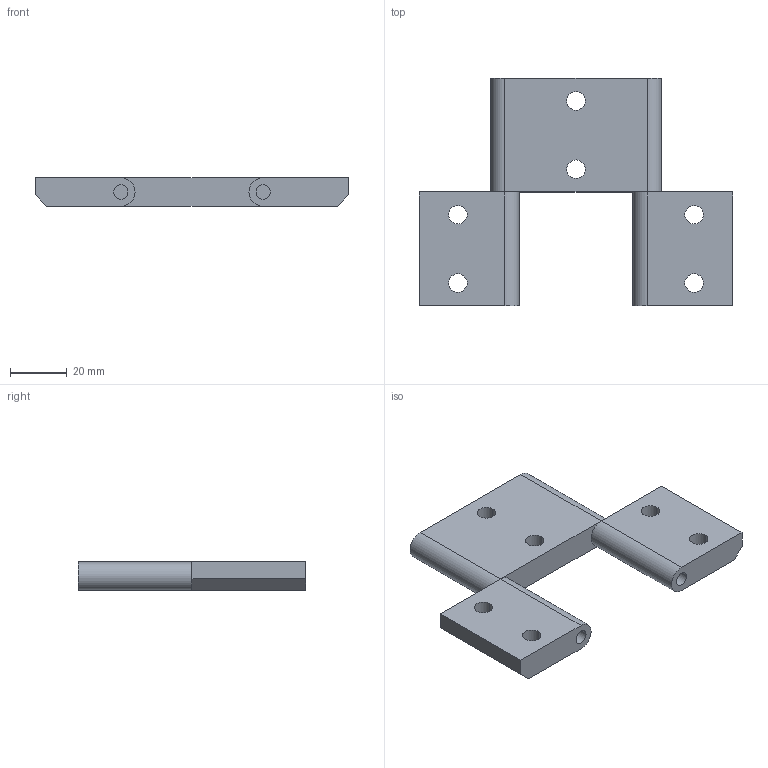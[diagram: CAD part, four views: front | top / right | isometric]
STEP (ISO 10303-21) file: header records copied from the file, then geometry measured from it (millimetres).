
FILE_DESCRIPTION((''),'2;1');
FILE_NAME('CEP3030D_ASM','2002-12-27T',('Lipro doo'),('Lipro d.o.o.'),'PRO/ENGINEER BY PARAMETRIC TECHNOLOGY CORPORATION, 2001150','PRO/ENGINEER BY PARAMETRIC TECHNOLOGY CORPORATION, 2001150','');
FILE_SCHEMA(('CONFIG_CONTROL_DESIGN'));
Length unit declared in the file: millimetre
Products named in the file (4): OS_FI5X60; CEP45_D; CEP30_1; CEP3030D_ASM
Assembly tree (5 placements, depth 2):
  CEP3030D_ASM
    OS_FI5X60  x2
    CEP45_D
    CEP30_1  x2
Bounding box: 110 x 80 x 10 mm (x, y, z)
Volume: 46145.8 mm3; surface area: 19409.7 mm2
Topology: 5 solids, 5 shells, 60 faces, 138 edges, 88 vertices
Faces by surface type: cylinder 28, plane 20, cone 12
Entity records: 1287 total; most frequent: DIRECTION 233, CARTESIAN_POINT 197, ORIENTED_EDGE 182, AXIS2_PLACEMENT_3D 94, EDGE_CURVE 91, VERTEX_POINT 58, EDGE_LOOP 53, CIRCLE 46
